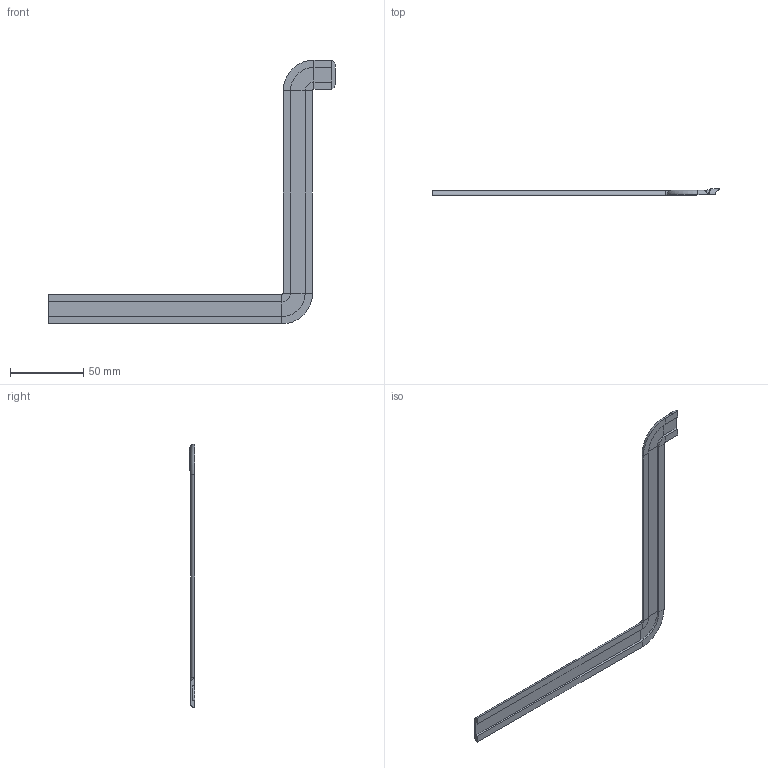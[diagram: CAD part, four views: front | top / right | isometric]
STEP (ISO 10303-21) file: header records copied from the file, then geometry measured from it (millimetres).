
FILE_DESCRIPTION (( 'STEP AP203' ), '1' );
FILE_NAME ('Ñîåäèíèòåëü ñî ñêàíåðîì öåëüíûé, ìîäåëü N1 (2 çàãèáà ñ ñîåäèí. ýëåìåíòîì â êîðîòêîé ÷àñòè).STEP', '2025-08-20T19:10:31', ( '' ), ( '' ), 'SwSTEP 2.0', 'SolidWorks 2024', '' );
FILE_SCHEMA (( 'CONFIG_CONTROL_DESIGN' ));
Length unit declared in the file: millimetre
Products named in the file (1): Соединитель со сканером цельный, модель N1 (2 загиба с соедин. элементом в короткой части)
Bounding box: 195.56 x 4 x 180 mm (x, y, z)
Volume: 14273.3 mm3; surface area: 16123 mm2
Topology: 1 solids, 1 shells, 69 faces, 149 edges, 78 vertices
Faces by surface type: plane 41, cylinder 14, bspline 10, torus 4
Entity records: 2162 total; most frequent: CARTESIAN_POINT 683, ORIENTED_EDGE 290, DIRECTION 289, EDGE_CURVE 145, AXIS2_PLACEMENT_3D 102, LINE 85, VECTOR 85, VERTEX_POINT 78
